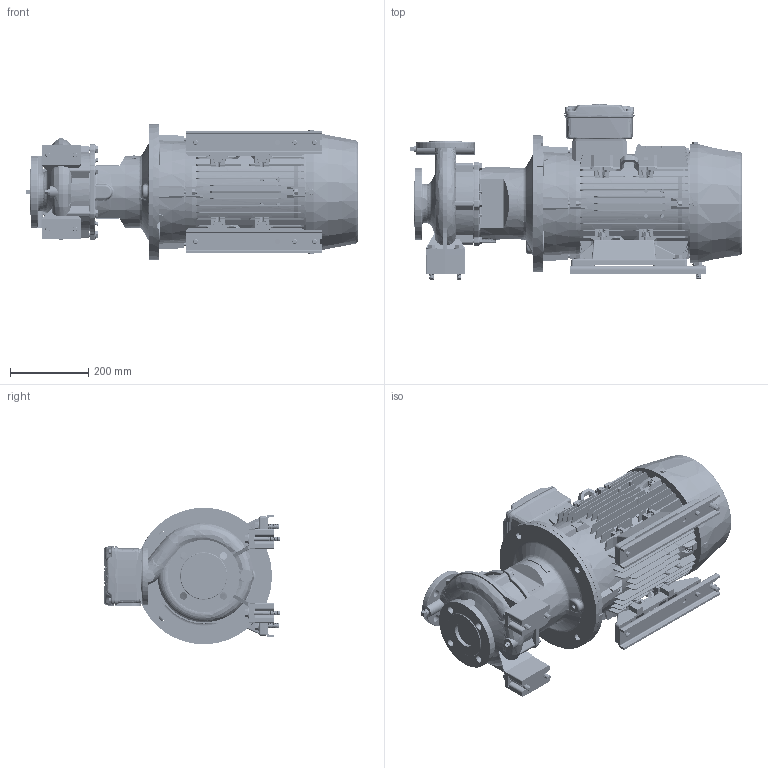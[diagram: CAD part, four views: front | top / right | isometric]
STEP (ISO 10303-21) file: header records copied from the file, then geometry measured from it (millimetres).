
FILE_DESCRIPTION (( 'STEP AP214' ), '1' );
FILE_NAME ('GSD2 40-160_11.0_(160ML)_W21.STEP', '2026-07-02T05:28:47', ( '' ), ( '' ), 'SwSTEP 2.0', 'SolidWorks 2024', '' );
FILE_SCHEMA (( 'AUTOMOTIVE_DESIGN' ));
Length unit declared in the file: millimetre
Products named in the file (11): CGS11-5301_2_3_4_5_CGS11-5301; Parametric bolt_SFT-A301B; 210_254 x 20 - 271472113; 40-160-160M_L; Parametric bolt and washer_SFT-A301B; 160M_L_ALIE3_W21T_B35; Parametric bolt_SFT-A319B; Parametric Flat Washer_M12; GSD2  40-160_11.0_(160ML)_W21; Parametric bolt and washer_SFT-A319B; CGS11-5301_2_3_4_5_CGS11-5303
Assembly tree (22 placements, depth 3):
  GSD2  40-160_11.0_(160ML)_W21
    40-160-160M_L
    CGS11-5301_2_3_4_5_CGS11-5301  x2
    CGS11-5301_2_3_4_5_CGS11-5303  x2
    210_254 x 20 - 271472113  x2
    Parametric bolt and washer_SFT-A319B  x4
      Parametric bolt_SFT-A319B
      Parametric Flat Washer_M12
    Parametric bolt and washer_SFT-A301B  x6
      Parametric bolt_SFT-A301B
      Parametric Flat Washer_M12
    160M_L_ALIE3_W21T_B35
Bounding box: 850.95 x 449.03 x 350 mm (x, y, z)
Volume: 42006810.9 mm3; surface area: 2828971 mm2
Topology: 66 solids, 72 shells, 6295 faces, 16395 edges, 10672 vertices
Faces by surface type: plane 3768, cylinder 1269, cone 553, bspline 432, torus 257, sphere 16
Entity records: 214731 total; most frequent: CARTESIAN_POINT 79048, ORIENTED_EDGE 29744, DIRECTION 25207, EDGE_CURVE 14872, VERTEX_POINT 9690, VECTOR 9507, LINE 9507, AXIS2_PLACEMENT_3D 7850
